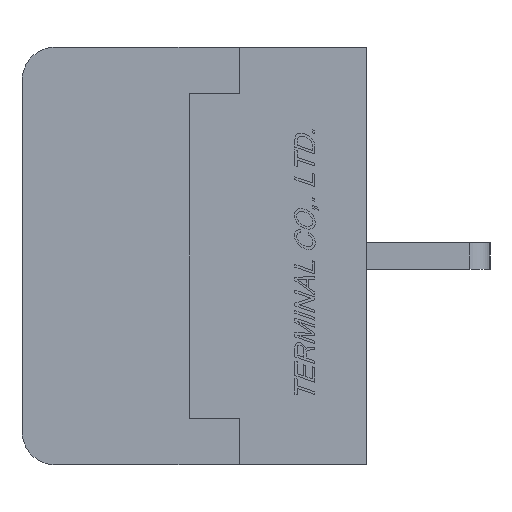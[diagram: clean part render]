
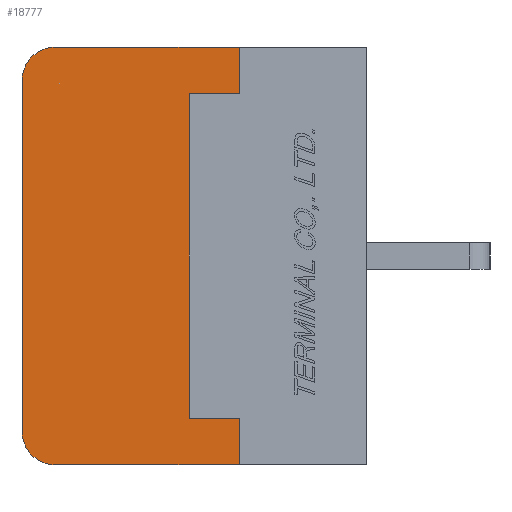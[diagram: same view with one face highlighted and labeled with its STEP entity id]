
A CAD part, left-side view. The second image highlights one B-rep face of the part: STEP entity #18777.
In plain terms, the highlighted planar face has unit normal (-1, 0, 0).
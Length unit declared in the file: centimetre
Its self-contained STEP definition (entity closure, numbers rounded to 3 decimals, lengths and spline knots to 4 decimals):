
#1021=CIRCLE('',#31712,0.1);
#1023=CIRCLE('',#31715,0.1);
#2570=VERTEX_POINT('',#29053);
#2571=VERTEX_POINT('',#29055);
#2573=VERTEX_POINT('',#29061);
#2575=VERTEX_POINT('',#29067);
#2576=VERTEX_POINT('',#29074);
#2577=VERTEX_POINT('',#29075);
#2578=VERTEX_POINT('',#29078);
#2579=VERTEX_POINT('',#29080);
#2580=VERTEX_POINT('',#29082);
#2581=VERTEX_POINT('',#29084);
#4568=VECTOR('',#23006,1.);
#4574=VECTOR('',#23026,1.);
#4575=VECTOR('',#23027,1.);
#4576=VECTOR('',#23028,1.);
#4577=VECTOR('',#23029,1.);
#4578=VECTOR('',#23030,1.);
#4579=VECTOR('',#23031,1.);
#4580=VECTOR('',#23032,1.);
#6634=LINE('',#29054,#4568);
#6640=LINE('',#29073,#4574);
#6641=LINE('',#29076,#4575);
#6642=LINE('',#29077,#4576);
#6643=LINE('',#29079,#4577);
#6644=LINE('',#29081,#4578);
#6645=LINE('',#29083,#4579);
#6646=LINE('',#29085,#4580);
#9378=EDGE_CURVE('',#2570,#2571,#6634,.T.);
#9382=EDGE_CURVE('',#2573,#2570,#1021,.T.);
#9384=EDGE_CURVE('',#2571,#2575,#1023,.T.);
#9388=EDGE_CURVE('',#2576,#2577,#6640,.T.);
#9389=EDGE_CURVE('',#2575,#2576,#6641,.T.);
#9390=EDGE_CURVE('',#2578,#2573,#6642,.T.);
#9391=EDGE_CURVE('',#2579,#2578,#6643,.T.);
#9392=EDGE_CURVE('',#2580,#2579,#6644,.T.);
#9393=EDGE_CURVE('',#2581,#2580,#6645,.T.);
#9394=EDGE_CURVE('',#2577,#2581,#6646,.T.);
#14484=ORIENTED_EDGE('',*,*,#9388,.F.);
#14485=ORIENTED_EDGE('',*,*,#9389,.F.);
#14486=ORIENTED_EDGE('',*,*,#9384,.F.);
#14487=ORIENTED_EDGE('',*,*,#9378,.F.);
#14488=ORIENTED_EDGE('',*,*,#9382,.F.);
#14489=ORIENTED_EDGE('',*,*,#9390,.F.);
#14490=ORIENTED_EDGE('',*,*,#9391,.F.);
#14491=ORIENTED_EDGE('',*,*,#9392,.F.);
#14492=ORIENTED_EDGE('',*,*,#9393,.F.);
#14493=ORIENTED_EDGE('',*,*,#9394,.F.);
#16538=EDGE_LOOP('',(#14484,#14485,#14486,#14487,#14488,#14489,#14490,#14491,
#14492,#14493));
#17692=FACE_BOUND('',#16538,.T.);
#18777=ADVANCED_FACE('',(#17692),#19581,.F.);
#19581=PLANE('',#31717);
#23006=DIRECTION('',(0.,0.,1.));
#23013=DIRECTION('',(1.,0.,0.));
#23014=DIRECTION('',(0.,0.,-0.1));
#23019=DIRECTION('',(1.,0.,0.));
#23020=DIRECTION('',(0.,0.,-0.1));
#23025=DIRECTION('',(1.,0.,0.));
#23026=DIRECTION('',(0.,0.,-1.));
#23027=DIRECTION('',(0.,-1.,0.));
#23028=DIRECTION('',(0.,1.,0.));
#23029=DIRECTION('',(0.,0.,-1.));
#23030=DIRECTION('',(0.,-1.,0.));
#23031=DIRECTION('',(0.,0.,-1.));
#23032=DIRECTION('',(0.,1.,0.));
#29053=CARTESIAN_POINT('',(-0.762,1.03,-0.525));
#29054=CARTESIAN_POINT('',(-0.762,1.03,-0.525));
#29055=CARTESIAN_POINT('',(-0.762,1.03,0.525));
#29061=CARTESIAN_POINT('',(-0.762,0.93,-0.625));
#29062=CARTESIAN_POINT('',(-0.762,0.93,-0.525));
#29066=CARTESIAN_POINT('',(-0.762,0.93,0.525));
#29067=CARTESIAN_POINT('',(-0.762,0.93,0.625));
#29072=CARTESIAN_POINT('',(-0.762,0.5047,0.));
#29073=CARTESIAN_POINT('',(-0.762,0.38,0.625));
#29074=CARTESIAN_POINT('',(-0.762,0.38,0.625));
#29075=CARTESIAN_POINT('',(-0.762,0.38,0.485));
#29076=CARTESIAN_POINT('',(-0.762,0.93,0.625));
#29077=CARTESIAN_POINT('',(-0.762,0.,-0.625));
#29078=CARTESIAN_POINT('',(-0.762,0.38,-0.625));
#29079=CARTESIAN_POINT('',(-0.762,0.38,-0.485));
#29080=CARTESIAN_POINT('',(-0.762,0.38,-0.485));
#29081=CARTESIAN_POINT('',(-0.762,0.53,-0.485));
#29082=CARTESIAN_POINT('',(-0.762,0.53,-0.485));
#29083=CARTESIAN_POINT('',(-0.762,0.53,0.485));
#29084=CARTESIAN_POINT('',(-0.762,0.53,0.485));
#29085=CARTESIAN_POINT('',(-0.762,0.38,0.485));
#31712=AXIS2_PLACEMENT_3D('',#29062,#23013,#23014);
#31715=AXIS2_PLACEMENT_3D('',#29066,#23019,#23020);
#31717=AXIS2_PLACEMENT_3D('',#29072,#23025,$);
